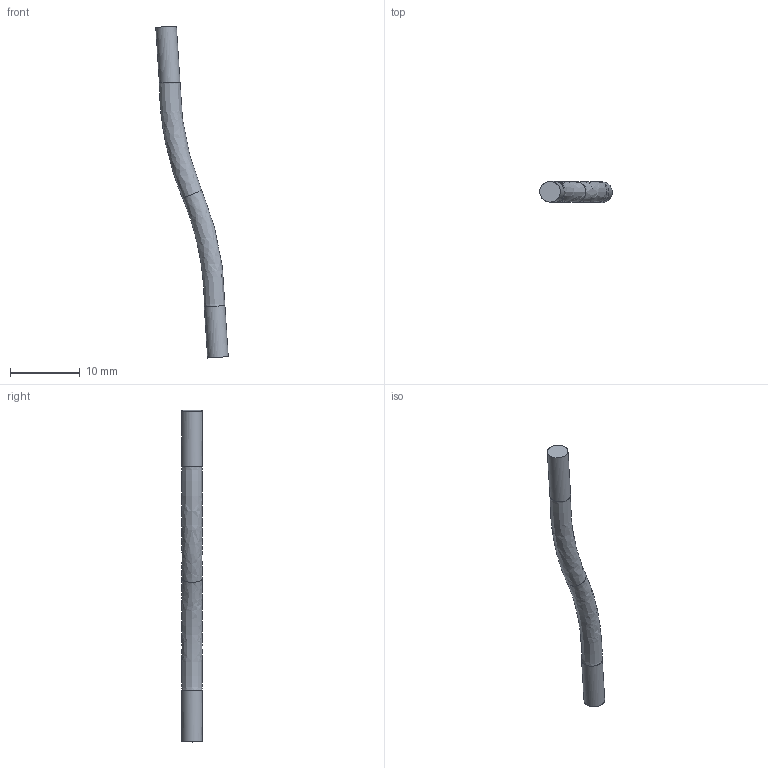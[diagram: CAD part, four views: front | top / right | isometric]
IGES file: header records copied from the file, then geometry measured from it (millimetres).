
Start section: C
Global section: file name: Black_4640742_AVV.iges; native system: By Siemens PLM Incorporated; preprocessor: XPlus GENERIC/IGES 26.1.183; author: Author; organization: Title; date: 20250721.234841; units: millimetre
Bounding box: 10.39 x 2.96 x 47.56 mm (x, y, z)
Surface area: 462.7 mm2 (no closed solid volume)
Topology: 0 solids, 0 shells, 6 faces, 32 edges, 32 vertices
Faces by surface type: bspline 6
